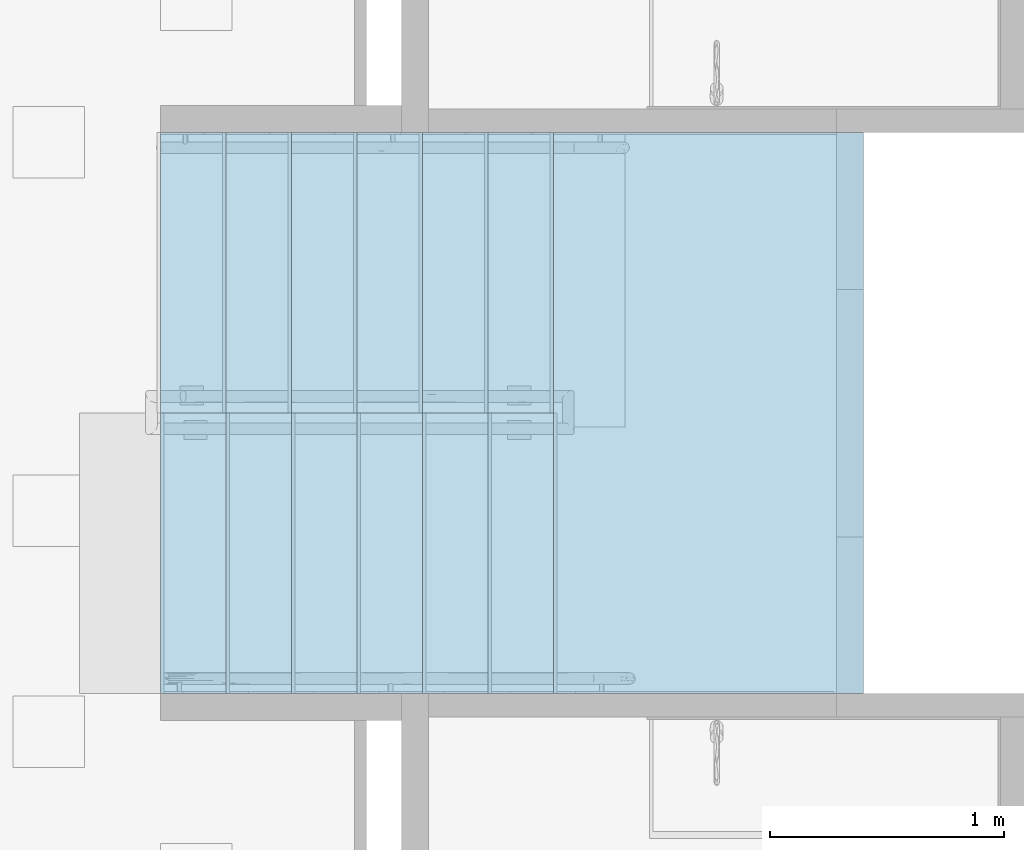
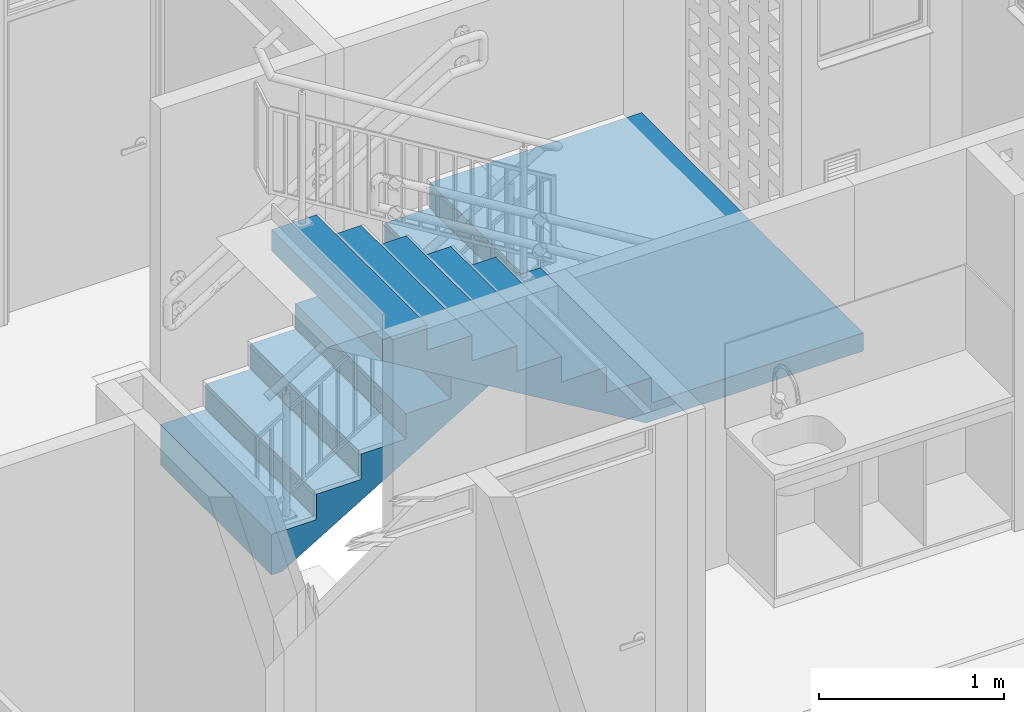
# One storey, part 33 of 48: 1 stair.
"""IFC4 building model written with IfcOpenShell, lengths in metres."""

from ifc_helpers import new_model, entity, si_unit, converted_unit, derived_unit, direction, frame, origin, place, context, subcontext, project, spatial, polygons, material, type_object, element, save


model = new_model("IFC4")

# Units and contexts
model_context = context("Model", 3, precision=1e-05, world=origin(), true_north=direction((6.123031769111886e-17, 1.0)))
body_context = subcontext(model_context, "Body", "Model", "MODEL_VIEW")
ifc_project = project(units=[si_unit("LENGTHUNIT", "METRE"), si_unit("AREAUNIT", "SQUARE_METRE"), si_unit("VOLUMEUNIT", "CUBIC_METRE"), converted_unit("PLANEANGLEUNIT", "DEGREE", entity("IfcRatioMeasure", 0.017453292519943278), si_unit("PLANEANGLEUNIT", "RADIAN"), dimensions=[0, 0, 0, 0, 0, 0, 0]), si_unit("MASSUNIT", "GRAM", prefix="KILO"), derived_unit("MASSDENSITYUNIT", [(si_unit("MASSUNIT", "GRAM", prefix="KILO"), 1), (si_unit("LENGTHUNIT", "METRE"), -3)]), derived_unit("IONCONCENTRATIONUNIT", [(si_unit("MASSUNIT", "GRAM", prefix="KILO"), 1), (si_unit("LENGTHUNIT", "METRE"), -3)]), derived_unit("MOMENTOFINERTIAUNIT", [(si_unit("LENGTHUNIT", "METRE"), 4)]), si_unit("TIMEUNIT", "SECOND"), si_unit("FREQUENCYUNIT", "HERTZ"), si_unit("THERMODYNAMICTEMPERATUREUNIT", "DEGREE_CELSIUS"), derived_unit("THERMALTRANSMITTANCEUNIT", [(si_unit("MASSUNIT", "GRAM", prefix="KILO"), 1), (si_unit("THERMODYNAMICTEMPERATUREUNIT", "KELVIN"), -1), (si_unit("TIMEUNIT", "SECOND"), -3)]), derived_unit("THERMALCONDUCTANCEUNIT", [(si_unit("MASSUNIT", "GRAM", prefix="KILO"), 1), (si_unit("THERMODYNAMICTEMPERATUREUNIT", "KELVIN"), -1), (si_unit("TIMEUNIT", "SECOND"), -3), (si_unit("LENGTHUNIT", "METRE"), 1)]), derived_unit("VOLUMETRICFLOWRATEUNIT", [(si_unit("LENGTHUNIT", "METRE"), 3), (si_unit("TIMEUNIT", "SECOND"), -1)]), derived_unit("MASSFLOWRATEUNIT", [(si_unit("MASSUNIT", "GRAM", prefix="KILO"), 1), (si_unit("TIMEUNIT", "SECOND"), -1)]), derived_unit("ROTATIONALFREQUENCYUNIT", [(si_unit("TIMEUNIT", "SECOND"), -1)]), si_unit("ELECTRICCURRENTUNIT", "AMPERE"), si_unit("ELECTRICVOLTAGEUNIT", "VOLT"), si_unit("POWERUNIT", "WATT"), si_unit("FORCEUNIT", "NEWTON", prefix="KILO"), si_unit("ILLUMINANCEUNIT", "LUX"), si_unit("LUMINOUSFLUXUNIT", "LUMEN"), si_unit("LUMINOUSINTENSITYUNIT", "CANDELA"), derived_unit("USERDEFINED", [(si_unit("MASSUNIT", "GRAM", prefix="KILO"), -1), (si_unit("LENGTHUNIT", "METRE"), -2), (si_unit("TIMEUNIT", "SECOND"), 3), (si_unit("LUMINOUSFLUXUNIT", "LUMEN"), 1)]), derived_unit("USERDEFINED", [(si_unit("MASSUNIT", "GRAM", prefix="KILO"), 1), (si_unit("TIMEUNIT", "SECOND"), -3), (si_unit("LENGTHUNIT", "METRE"), 3), (si_unit("ELECTRICCURRENTUNIT", "AMPERE"), -2)]), derived_unit("SOUNDPOWERUNIT", [(si_unit("MASSUNIT", "GRAM", prefix="KILO"), 1), (si_unit("TIMEUNIT", "SECOND"), -3), (si_unit("LENGTHUNIT", "METRE"), 2)]), derived_unit("SOUNDPRESSUREUNIT", [(si_unit("MASSUNIT", "GRAM", prefix="KILO"), 1), (si_unit("LENGTHUNIT", "METRE"), -1), (si_unit("TIMEUNIT", "SECOND"), -2)]), derived_unit("LINEARVELOCITYUNIT", [(si_unit("LENGTHUNIT", "METRE"), 1), (si_unit("TIMEUNIT", "SECOND"), -1)]), si_unit("PRESSUREUNIT", "PASCAL"), derived_unit("USERDEFINED", [(si_unit("MASSUNIT", "GRAM", prefix="KILO"), 1), (si_unit("LENGTHUNIT", "METRE"), -2), (si_unit("TIMEUNIT", "SECOND"), -2)]), derived_unit("LINEARFORCEUNIT", [(si_unit("MASSUNIT", "GRAM", prefix="KILO"), 1), (si_unit("TIMEUNIT", "SECOND"), -2)]), derived_unit("PLANARFORCEUNIT", [(si_unit("MASSUNIT", "GRAM", prefix="KILO"), 1), (si_unit("LENGTHUNIT", "METRE"), -1), (si_unit("TIMEUNIT", "SECOND"), -2)]), derived_unit("SPECIFICHEATCAPACITYUNIT", [(si_unit("THERMODYNAMICTEMPERATUREUNIT", "KELVIN"), -1), (si_unit("LENGTHUNIT", "METRE"), 2), (si_unit("TIMEUNIT", "SECOND"), -2)]), derived_unit("HEATINGVALUEUNIT", [(si_unit("LENGTHUNIT", "METRE"), 2), (si_unit("TIMEUNIT", "SECOND"), -2)]), derived_unit("VAPORPERMEABILITYUNIT", [(si_unit("LENGTHUNIT", "METRE"), -1), (si_unit("TIMEUNIT", "SECOND"), 1)]), derived_unit("DYNAMICVISCOSITYUNIT", [(si_unit("MASSUNIT", "GRAM", prefix="KILO"), 1), (si_unit("TIMEUNIT", "SECOND"), -1), (si_unit("LENGTHUNIT", "METRE"), -1)]), derived_unit("THERMALEXPANSIONCOEFFICIENTUNIT", [(si_unit("THERMODYNAMICTEMPERATUREUNIT", "KELVIN"), -1)]), derived_unit("MODULUSOFELASTICITYUNIT", [(si_unit("MASSUNIT", "GRAM", prefix="KILO"), 1), (si_unit("LENGTHUNIT", "METRE"), -1), (si_unit("TIMEUNIT", "SECOND"), -2)]), derived_unit("ISOTHERMALMOISTURECAPACITYUNIT", [(si_unit("LENGTHUNIT", "METRE"), 3), (si_unit("MASSUNIT", "GRAM", prefix="KILO"), -1)]), derived_unit("MOISTUREDIFFUSIVITYUNIT", [(si_unit("TIMEUNIT", "SECOND"), -1), (si_unit("LENGTHUNIT", "METRE"), 2)])], contexts=[model_context])

# Site, building, storey
site_placement = place(None, origin())
site = spatial("IfcSite", under=ifc_project, at=site_placement, Name="Default", CompositionType="ELEMENT")
building_placement = place(site_placement, origin())
building = spatial("IfcBuilding", under=site, at=building_placement, CompositionType="ELEMENT")
storey_placement = place(building_placement, frame((0.0, 0.0, 7.050000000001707)))
storey = spatial("IfcBuildingStorey", under=building, at=storey_placement, Name="Nivel 4", CompositionType="ELEMENT", Elevation=7.050000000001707)

# Stair
ifc_material = material(Name="Concreto (Aire)", Category="Materials")
stair_type = type_object("IfcStairType", Name="Stair:B1080 - 2.40 x 2.88 - Escalera en concreto de dos tramos piso tipo", PredefinedType="NOTDEFINED")
stair_placement = place(storey_placement, frame((9.55250000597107, -7.625000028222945, -0.09999999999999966)))
element("IfcStair", 1, at=stair_placement, inside=storey, type_object=stair_type, material=ifc_material, Name="Stair:B1080 - 2.40 x 2.88 - Escalera en concreto de dos tramos piso tipo", ObjectType="Stair:B1080 - 2.40 x 2.88 - Escalera en concreto de dos tramos piso tipo", PredefinedType="NOTDEFINED", context=body_context, shape_type="Tessellation", body=[
    polygons([(0.2800000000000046, 2.4000000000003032, 0.2678571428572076), (4.331468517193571e-15, 2.4000000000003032, 0.2678571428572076), (4.331468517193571e-15, 1.2000000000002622, 0.2678571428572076), (0.28000000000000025, 1.200000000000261, 0.2678571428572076), (0.28000000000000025, 2.4000000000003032, 0.4357142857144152), (0.5600000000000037, 2.4000000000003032, 0.4357142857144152), (0.5600000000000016, 2.4000000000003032, 0.6035714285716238), (0.8400000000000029, 2.4000000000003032, 0.6035714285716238), (0.8400000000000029, 2.4000000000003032, 0.7714285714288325), (1.120000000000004, 2.4000000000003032, 0.7714285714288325), (1.1199999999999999, 2.4000000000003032, 0.9392857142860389), (1.4000000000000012, 2.4000000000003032, 0.9392857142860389), (1.399999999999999, 2.4000000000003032, 1.1071428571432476), (1.6800000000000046, 2.4000000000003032, 1.1071428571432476), (1.6800000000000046, 2.4000000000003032, 1.2750000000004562), (3.005000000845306, 2.4000000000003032, 1.2750000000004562), (3.005000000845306, 2.4000000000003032, 1.1550000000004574), (1.9932138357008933, 2.4000000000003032, 1.1550000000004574), (0.0665755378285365, 2.4000000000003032, -1.0828671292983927e-15), (4.331468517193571e-15, 2.4000000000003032, -1.0828671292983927e-15), (4.331468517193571e-15, 1.2000000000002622, -1.0828671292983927e-15), (1.993213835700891, 1.2000000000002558, 1.1550000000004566), (0.0665755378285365, 1.2000000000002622, -1.0828671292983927e-15), (1.6467861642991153, 1.199000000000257, 1.1550000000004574), (1.646786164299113, 1.0828671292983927e-15, 1.1550000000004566), (-2.1657342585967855e-15, 1.0828671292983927e-15, 2.142231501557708), (4.331468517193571e-15, 1.1990000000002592, 2.142231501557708), (3.005000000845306, 1.0828671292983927e-15, 1.1550000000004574), (1.6800000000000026, 1.199000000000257, 1.1550000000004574), (1.6800000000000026, 1.2000000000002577, 1.1550000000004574), (0.28000000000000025, 1.2000000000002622, 0.4357142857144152), (0.5600000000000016, 1.200000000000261, 0.4357142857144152), (0.5600000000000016, 1.200000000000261, 0.6035714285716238), (0.8400000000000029, 1.200000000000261, 0.6035714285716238), (0.8400000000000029, 1.200000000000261, 0.7714285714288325), (1.1199999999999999, 1.200000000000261, 0.7714285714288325), (1.1199999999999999, 1.200000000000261, 0.9392857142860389), (1.399999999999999, 1.20000000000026, 0.9392857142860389), (1.399999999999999, 1.200000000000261, 1.1071428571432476), (1.6800000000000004, 1.2000000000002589, 1.1071428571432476), (1.6800000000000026, 1.2000000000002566, 1.2750000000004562), (1.6800000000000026, 1.199000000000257, 1.2750000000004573), (1.6799999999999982, 1.0828671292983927e-15, 1.2750000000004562), (3.005000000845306, 1.0828671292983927e-15, 1.2750000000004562), (1.6799999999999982, 1.0828671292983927e-15, 1.4428571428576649), (1.4000000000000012, 1.0828671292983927e-15, 1.4428571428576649), (1.4000000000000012, 1.0828671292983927e-15, 1.6107142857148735), (1.1199999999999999, 1.0828671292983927e-15, 1.6107142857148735), (1.1199999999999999, 1.0828671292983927e-15, 1.778571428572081), (0.8399999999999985, 1.0828671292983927e-15, 1.778571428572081), (0.8399999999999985, 1.0828671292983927e-15, 1.9464285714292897), (0.5600000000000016, 1.0828671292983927e-15, 1.9464285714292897), (0.5600000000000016, 1.0828671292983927e-15, 2.1142857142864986), (0.28000000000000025, 1.0828671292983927e-15, 2.1142857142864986), (0.28000000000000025, 1.0828671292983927e-15, 2.282142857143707), (-2.1657342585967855e-15, 1.0828671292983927e-15, 2.282142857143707), (1.6800000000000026, 1.199000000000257, 1.4428571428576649), (1.4000000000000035, 1.199000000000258, 1.4428571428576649), (1.4000000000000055, 1.199000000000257, 1.6107142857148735), (1.120000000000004, 1.199000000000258, 1.6107142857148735), (1.120000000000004, 1.199000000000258, 1.778571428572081), (0.8400000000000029, 1.1990000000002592, 1.778571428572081), (0.8400000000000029, 1.199000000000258, 1.9464285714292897), (0.5600000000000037, 1.1990000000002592, 1.9464285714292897), (0.5600000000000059, 1.199000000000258, 2.1142857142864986), (0.2800000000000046, 1.1990000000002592, 2.1142857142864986), (0.2800000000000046, 1.199000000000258, 2.282142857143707), (4.331468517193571e-15, 1.199000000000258, 2.282142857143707)], [[[1, 2, 3, 4]], [[2, 1, 5, 6, 7, 8, 9, 10, 11, 12, 13, 14, 15, 16, 17, 18, 19, 20]], [[3, 2, 20, 21]], [[18, 22, 23, 19]], [[24, 25, 26, 27]], [[22, 18, 17, 28, 25, 24, 29, 30]], [[6, 5, 31, 32]], [[8, 7, 33, 34]], [[10, 9, 35, 36]], [[12, 11, 37, 38]], [[14, 13, 39, 40]], [[16, 15, 41, 42, 43, 44]], [[42, 41, 30, 29]], [[44, 43, 45, 46, 47, 48, 49, 50, 51, 52, 53, 54, 55, 56, 26, 25, 28]], [[16, 44, 28, 17]], [[15, 14, 40, 30, 41]], [[46, 45, 57, 58]], [[48, 47, 59, 60]], [[50, 49, 61, 62]], [[52, 51, 63, 64]], [[54, 53, 65, 66]], [[56, 55, 67, 68]], [[21, 20, 19, 23]], [[4, 3, 21, 23, 22, 30, 40, 39, 38, 37, 36, 35, 34, 33, 32, 31]], [[1, 4, 31, 5]], [[7, 6, 32, 33]], [[9, 8, 34, 35]], [[11, 10, 36, 37]], [[13, 12, 38, 39]], [[43, 42, 57, 45]], [[58, 57, 42, 29, 24, 27, 68, 67, 66, 65, 64, 63, 62, 61, 60, 59]], [[47, 46, 58, 59]], [[49, 48, 60, 61]], [[51, 50, 62, 63]], [[53, 52, 64, 65]], [[55, 54, 66, 67]], [[56, 68, 27, 26]]], closed=True),
])

save(model, "model.ifc")
